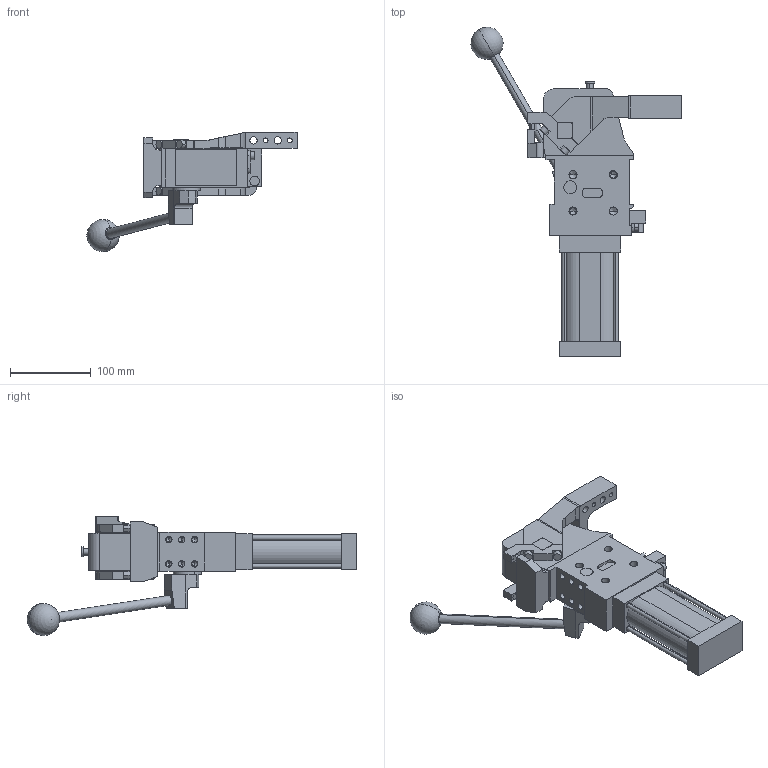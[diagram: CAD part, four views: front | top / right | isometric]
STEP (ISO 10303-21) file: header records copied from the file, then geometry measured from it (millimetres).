
FILE_DESCRIPTION (( 'STEP AP214' ), '1' );
FILE_NAME ('cplm50lbtv1ssi1g_16.STEP', '2023-01-26T13:23:07', ( '' ), ( '' ), 'SwSTEP 2.0', 'SolidWorks 2022', '' );
FILE_SCHEMA (( 'AUTOMOTIVE_DESIGN' ));
Length unit declared in the file: millimetre
Products named in the file (5): cplm50lbtv1ssi1g_16; blocchetto_VEP_0; leva_v1ss_cpl50t; meccanica_cplm_50_tassello_esterno; comando_manuale_cplm_50
Assembly tree (4 placements, depth 2):
  cplm50lbtv1ssi1g_16
    meccanica_cplm_50_tassello_esterno
    blocchetto_VEP_0
    leva_v1ss_cpl50t
    comando_manuale_cplm_50
Bounding box: 260.54 x 408.46 x 148 mm (x, y, z)
Volume: 1510268.7 mm3; surface area: 190869.6 mm2
Topology: 4 solids, 4 shells, 468 faces, 1213 edges, 761 vertices
Faces by surface type: plane 243, cylinder 173, cone 50, sphere 2
Entity records: 15558 total; most frequent: CARTESIAN_POINT 2483, DIRECTION 2468, ORIENTED_EDGE 2324, EDGE_CURVE 1162, AXIS2_PLACEMENT_3D 841, LINE 786, VECTOR 786, VERTEX_POINT 758
